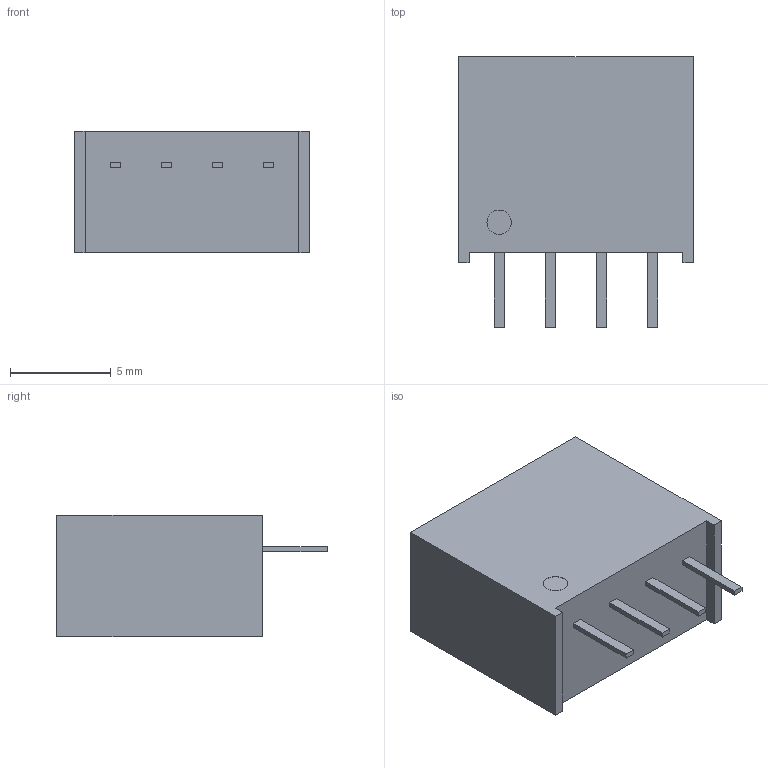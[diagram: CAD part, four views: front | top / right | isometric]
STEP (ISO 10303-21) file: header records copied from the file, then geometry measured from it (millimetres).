
FILE_DESCRIPTION (( 'STEP AP203' ), '1' );
FILE_NAME ('EC1TAN 5V 12V 2025.02.17.STEP', '2025-02-18T02:08:50', ( '' ), ( '' ), 'SwSTEP 2.0', 'SolidWorks 2020', '' );
FILE_SCHEMA (( 'CONFIG_CONTROL_DESIGN' ));
Length unit declared in the file: millimetre
Products named in the file (1): EC1TAN 5V 12V 2025.02.17
Bounding box: 11.6 x 13.4 x 6 mm (x, y, z)
Volume: 679.9 mm3; surface area: 515.9 mm2
Topology: 1 solids, 1 shells, 32 faces, 75 edges, 50 vertices
Faces by surface type: plane 31, cylinder 1
Full cylindrical faces by diameter (mm): 1.2 x1
Entity records: 973 total; most frequent: CARTESIAN_POINT 157, ORIENTED_EDGE 148, DIRECTION 142, EDGE_CURVE 74, LINE 72, VECTOR 72, VERTEX_POINT 50, EDGE_LOOP 38
